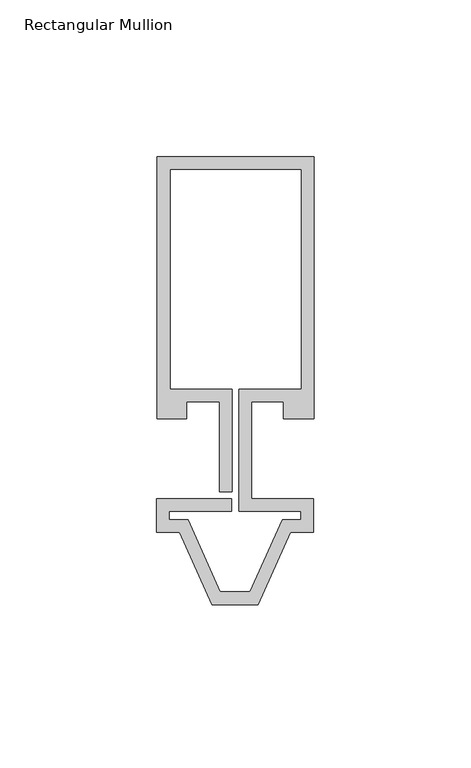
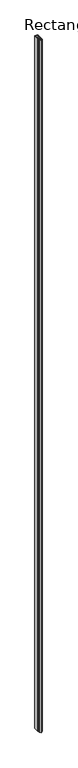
"""IFC4 building model written with IfcOpenShell, lengths in millimetres: member geometry, Rectangular Mullion : Reynaers_CW-50_Transom-Transom_Vertical_83.5mm_Facecap-04."""

from ifc_helpers import new_model, si_unit, frame, origin, place, context, project, spatial, polyline, outline, extrude, source, transform, mapped, element, save


def rectangular_mullion_31bb69b8(model_context):
    return source(origin(), model_context, "Body", "SweptSolid", [
        extrude(outline(polyline([(25.1995941, 12.7331291), (15.499, 12.7331291), (15.499, 18.1331291), (5.2995941, 18.1331291), (5.2995941, -12.7331291), (24.994845, -12.7331291), (24.994845, -23.3331291), (17.6543638, -23.3331291), (7.3695812, -46.4331291), (-7.3695812, -46.4331291), (-17.6543638, -23.3331291), (-24.994845, -23.3331291), (-24.994845, -12.7331291), (-1.0995941, -12.7331291), (-1.0995941, -16.7331291), (-20.994845, -16.7331291), (-20.994845, -19.3331291), (-15.0567334, -19.3331291), (-4.7719508, -42.4331291), (4.7719508, -42.4331291), (15.0567334, -19.3331291), (20.994845, -19.3331291), (20.994845, -16.7331291), (1.2995941, -16.7331291), (1.2995941, 22.1331291), (21.1995941, 22.1331291), (21.1995941, 92.2331291), (-20.8004059, 92.2331291), (-20.8004059, 22.1331291), (-0.9004059, 22.1331291), (-0.9004059, -10.5), (-4.9004059, -10.5), (-4.9004059, 18.1331291), (-15.499, 18.1331291), (-15.499, 12.7331291), (-24.8004059, 12.7331291), (-24.8004059, 96.2331291), (25.1995941, 96.2331291), (25.1995941, 12.7331291)])), frame((0.0, 0.0, -12000.0), z_axis=(0.0, 0.0, 1.0), x_axis=(1.0, 0.0, 0.0)), (0.0, 0.0, 1.0), 12000.0),
    ])


if __name__ == "__main__":
    model = new_model("IFC4")
    model_context = context("Model", 3, world=origin())
    ifc_project = project(units=[si_unit("LENGTHUNIT", "METRE", prefix="MILLI")], contexts=[model_context])
    site = spatial("IfcSite", under=ifc_project)
    building = spatial("IfcBuilding", under=site)
    placement = place(None, origin())
    rectangular_mullion_shape = rectangular_mullion_31bb69b8(model_context)
    element("IfcMember", 1, ObjectType="Rectangular Mullion : Reynaers_CW-50_Transom-Transom_Vertical_83.5mm_Facecap-04", at=placement, inside=building, context=model_context, shape_type="MappedRepresentation", body=[
        mapped(rectangular_mullion_shape, transform((0.0, 0.0, 0.0), x_axis=(1.0, 0.0, 0.0), y_axis=(0.0, 1.0, 0.0), z_axis=(0.0, 0.0, 1.0))),
    ])
    save(model, "model.ifc")
